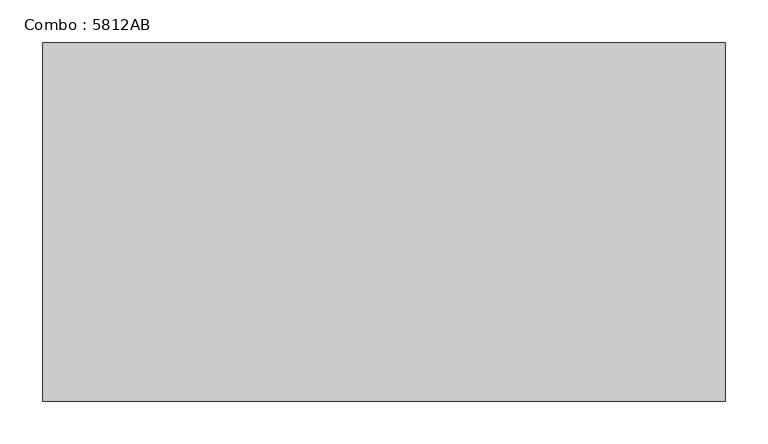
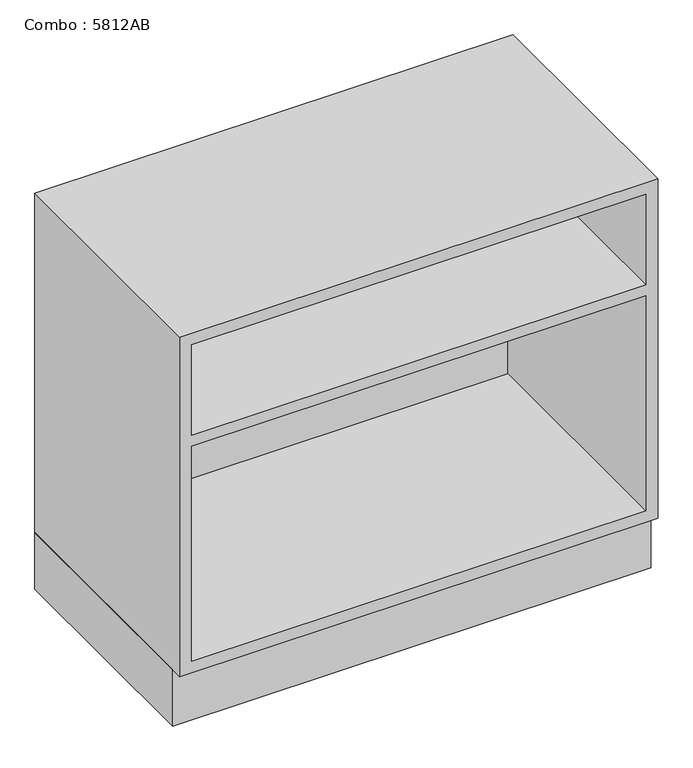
"""IFC4 building model written with IfcOpenShell, lengths in millimetres: furniture geometry, Combo : 5812AB."""

from ifc_helpers import new_model, si_unit, origin, origin_with_axes, place, context, project, spatial, polyline, outline, extrude, faceted_brep, source, transform, mapped, element, save


def combo_5812ab_cb1a2f4d(model_context):
    return source(origin(), model_context, "Body", "SolidModel", [
        extrude(outline(polyline([(-400.0, -400.0), (-400.0, 0.0), (400.0, 0.0), (400.0, -400.0), (-400.0, -400.0)])), origin_with_axes(), (0.0, 0.0, 1.0), 100.0),
        faceted_brep([(400.0, 0.0, 700.0), (-400.0, 0.0, 700.0), (-400.0, -420.0, 700.0), (400.0, -420.0, 700.0), (-400.0, 0.0, 100.0), (400.0, 0.0, 100.0), (400.0, -420.0, 100.0), (-400.0, -420.0, 100.0), (380.0, -420.0, 120.0), (-380.0, -420.0, 120.0), (-380.0, -420.0, 500.0), (380.0, -420.0, 500.0), (380.0, -420.0, 520.0), (-380.0, -420.0, 520.0), (-380.0, -420.0, 680.0), (380.0, -420.0, 680.0), (380.0, -20.0, 120.0), (-380.0, -20.0, 120.0), (380.0, -20.0, 520.0), (-380.0, -20.0, 520.0), (380.0, -20.0, 500.0), (-380.0, -20.0, 500.0), (380.0, -20.0, 680.0), (-380.0, -20.0, 680.0)], [[[0, 1, 2, 3]], [[4, 5, 6, 7]], [[1, 0, 5, 4]], [[2, 1, 4, 7]], [[3, 2, 7, 6], [8, 9, 10, 11], [12, 13, 14, 15]], [[0, 3, 6, 5]], [[16, 17, 9, 8]], [[18, 19, 13, 12]], [[16, 20, 21, 17]], [[20, 16, 8, 11]], [[21, 20, 11, 10]], [[17, 21, 10, 9]], [[18, 22, 23, 19]], [[22, 18, 12, 15]], [[23, 22, 15, 14]], [[19, 23, 14, 13]]]),
    ])


if __name__ == "__main__":
    model = new_model("IFC4")
    model_context = context("Model", 3, world=origin())
    ifc_project = project(units=[si_unit("LENGTHUNIT", "METRE", prefix="MILLI")], contexts=[model_context])
    site = spatial("IfcSite", under=ifc_project)
    building = spatial("IfcBuilding", under=site)
    placement = place(None, origin())
    combo_5812ab_shape = combo_5812ab_cb1a2f4d(model_context)
    element("IfcFurniture", 1, ObjectType="Combo : 5812AB", at=placement, inside=building, context=model_context, shape_type="MappedRepresentation", body=[
        mapped(combo_5812ab_shape, transform((0.0, 0.0, 0.0), x_axis=(1.0, 0.0, 0.0), y_axis=(0.0, 1.0, 0.0), z_axis=(0.0, 0.0, 1.0))),
    ])
    save(model, "model.ifc")
